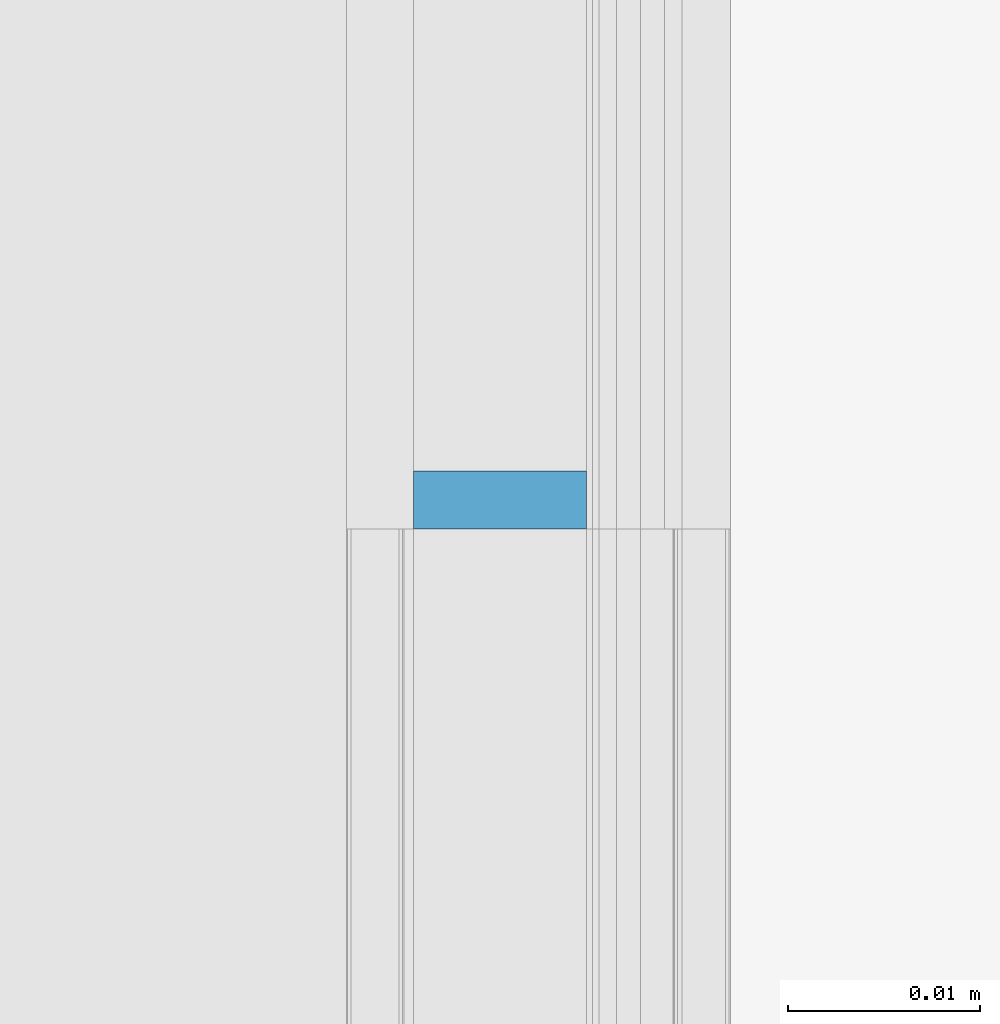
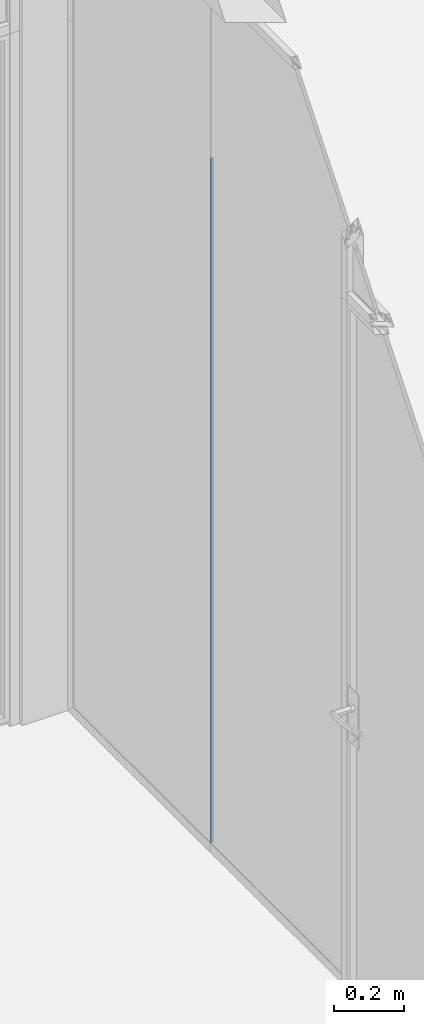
# One storey, part 6 of 387: 1 member, 1 element without a shape of its own.
"""IFC2X3 building model written with IfcOpenShell, lengths in millimetres."""

from ifc_helpers import new_model, entity, si_unit, converted_unit, derived_unit, money_unit, direction, frame, origin_with_axes, place, context, subcontext, project, spatial, polyline, outline, extrude, material, type_object, element, aggregate, save


model = new_model("IFC2X3")

# Units and contexts
model_context = context("Model", 3, precision=0.01, world=origin_with_axes(), true_north=direction((0.0, 1.0)))
body_context = subcontext(model_context, "Body", "Model", "MODEL_VIEW")
ifc_project = project(units=[si_unit("LENGTHUNIT", "METRE", prefix="MILLI"), si_unit("AREAUNIT", "SQUARE_METRE"), si_unit("VOLUMEUNIT", "CUBIC_METRE"), converted_unit("PLANEANGLEUNIT", "DEGREE", entity("IfcPlaneAngleMeasure", 0.0174532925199), si_unit("PLANEANGLEUNIT", "RADIAN"), dimensions=[0, 0, 0, 0, 0, 0, 0]), si_unit("SOLIDANGLEUNIT", "STERADIAN"), money_unit("EUR"), converted_unit("TIMEUNIT", "Year", entity("IfcTimeMeasure", 31556926.0), si_unit("TIMEUNIT", "SECOND"), dimensions=[0, 0, 1, 0, 0, 0, 0]), si_unit("MASSUNIT", "GRAM", prefix="KILO"), si_unit("THERMODYNAMICTEMPERATUREUNIT", "DEGREE_CELSIUS"), si_unit("LUMINOUSINTENSITYUNIT", "LUMEN"), si_unit("ENERGYUNIT", "JOULE", prefix="MEGA"), derived_unit("THERMALCONDUCTANCEUNIT", [(si_unit("POWERUNIT", "WATT"), 1), (si_unit("LENGTHUNIT", "METRE"), -1), (si_unit("THERMODYNAMICTEMPERATUREUNIT", "KELVIN"), -1)]), derived_unit("SPECIFICHEATCAPACITYUNIT", [(si_unit("ENERGYUNIT", "JOULE"), 1), (si_unit("MASSUNIT", "GRAM", prefix="KILO"), -1), (si_unit("THERMODYNAMICTEMPERATUREUNIT", "KELVIN"), -1)]), derived_unit("MASSDENSITYUNIT", [(si_unit("MASSUNIT", "GRAM", prefix="KILO"), 1), (si_unit("VOLUMEUNIT", "CUBIC_METRE"), -1)])], contexts=[model_context])

# Site, building, storey
site_placement = place(None, origin_with_axes())
site = spatial("IfcSite", under=ifc_project, at=site_placement, Name="Puškini 31, Narva", CompositionType="ELEMENT")
building_placement = place(site_placement, origin_with_axes())
building = spatial("IfcBuilding", under=site, at=building_placement, Name="Narva Riigigümnaasium", CompositionType="ELEMENT")
storey_placement = place(building_placement, frame((0.0, 0.0, 2640.0), z_axis=(0.0, 0.0, 1.0), x_axis=(1.0, 0.0, 0.0)))
storey = spatial("IfcBuildingStorey", under=building, at=storey_placement, Name="2.korrus +2.64", CompositionType="ELEMENT", Elevation=2640.0)

# Curtain wall, member
curtain_wall_type = type_object("IfcCurtainWallType", Name="Curtain Wall Type", PredefinedType="NOTDEFINED")
curtain_wall_placement = place(storey_placement, frame((28390.0000002, 176724.161139, -5.42380846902e-05), z_axis=(0.0, 0.0, 1.0), x_axis=(1.0, 0.0, 0.0)))
curtain_wall = element("IfcCurtainWall", 1, at=curtain_wall_placement, inside=storey, type_object=curtain_wall_type, Name="G-SKLF-12")
ifc_material = material(Name="VMR-03_Membraan - Veekindel")
member_type = type_object("IfcMemberType", Name="3 x -4", PredefinedType="MULLION")
member_placement = place(curtain_wall_placement, frame((-2.15969464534e-08, 1398.81089237, 0.0), z_axis=(0.0, 0.0, 1.0), x_axis=(0.0, 1.0, 0.0)))
member = element("IfcMember", 2, at=member_placement, type_object=member_type, material=ifc_material, Name="G-SKLF-12-raam", ObjectType="MULLION", context=body_context, shape_type="SweptSolid", body=[
    extrude(outline(polyline([(-6.5, -1.13686837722e-10), (2.5, 0.0), (2.49999999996, 3.00000000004), (-6.50000000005, 2.9999999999), (-6.5, -1.13686837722e-10)])), frame((0.0, 0.0, 30.0), z_axis=(0.0, 0.0, 1.0), x_axis=(0.0, -1.0, 0.0)), (0.0, 0.0, 1.0), 2370.00005424),
])
aggregate(curtain_wall, [member])

save(model, "model.ifc")
